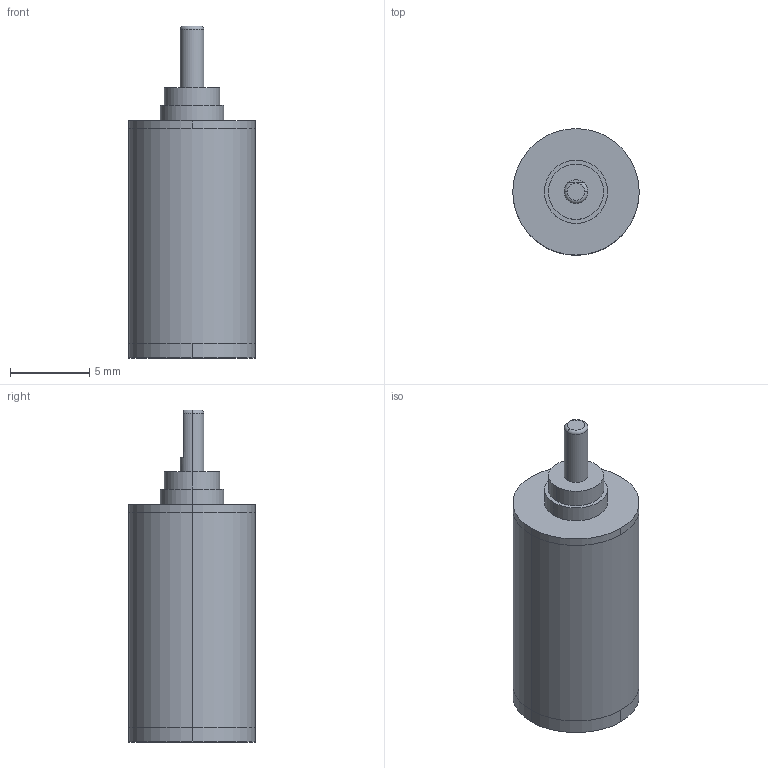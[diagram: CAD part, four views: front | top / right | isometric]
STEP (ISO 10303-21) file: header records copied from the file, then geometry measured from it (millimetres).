
FILE_DESCRIPTION (( 'STEP AP203' ), '1' );
FILE_NAME ('IG-08(I)-3stage.STEP', '2023-03-23T01:36:41', ( '' ), ( '' ), 'SwSTEP 2.0', 'SolidWorks 2019', '' );
FILE_SCHEMA (( 'CONFIG_CONTROL_DESIGN' ));
Length unit declared in the file: millimetre
Products named in the file (1): IG-08(I)-3stage
Bounding box: 8 x 8 x 21 mm (x, y, z)
Volume: 829.8 mm3; surface area: 793.9 mm2
Topology: 3 solids, 3 shells, 35 faces, 66 edges, 43 vertices
Faces by surface type: cylinder 18, plane 14, torus 3
Entity records: 982 total; most frequent: DIRECTION 179, CARTESIAN_POINT 159, ORIENTED_EDGE 132, AXIS2_PLACEMENT_3D 79, EDGE_CURVE 66, VERTEX_POINT 43, CIRCLE 43, EDGE_LOOP 41
